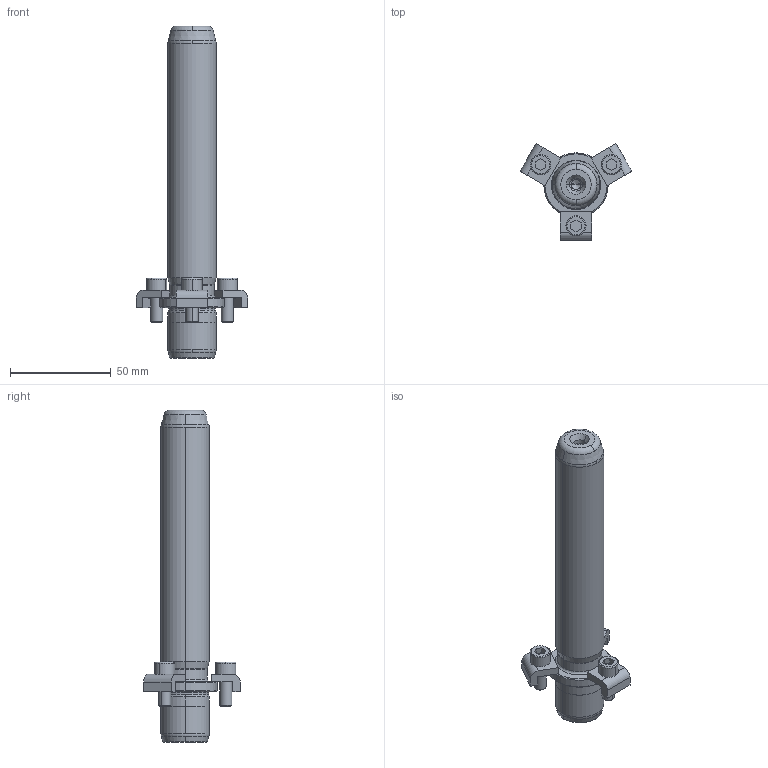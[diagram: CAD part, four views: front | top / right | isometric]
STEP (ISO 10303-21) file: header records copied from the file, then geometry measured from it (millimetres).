
FILE_DESCRIPTION((''),'2;1');
FILE_NAME('P21_024_140.stp','2008-12-23T09:27:30',(''),(''),'Mechanical Desktop 2009','Mechanical Desktop 2009',', , ');
FILE_SCHEMA(('CONFIG_CONTROL_DESIGN'));
Length unit declared in the file: millimetre
Products named in the file (2): Product; blmdl1
Assembly tree (1 placements, depth 2):
  Product
    blmdl1
Bounding box: 55.58 x 48.13 x 165 mm (x, y, z)
Volume: 79298.5 mm3; surface area: 19096.6 mm2
Topology: 7 solids, 7 shells, 163 faces, 417 edges, 269 vertices
Faces by surface type: plane 59, cylinder 44, cone 32, torus 14, bspline 14
Entity records: 5679 total; most frequent: CARTESIAN_POINT 1511, DIRECTION 914, ORIENTED_EDGE 826, EDGE_CURVE 413, AXIS2_PLACEMENT_3D 362, VERTEX_POINT 269, CIRCLE 211, VECTOR 190
